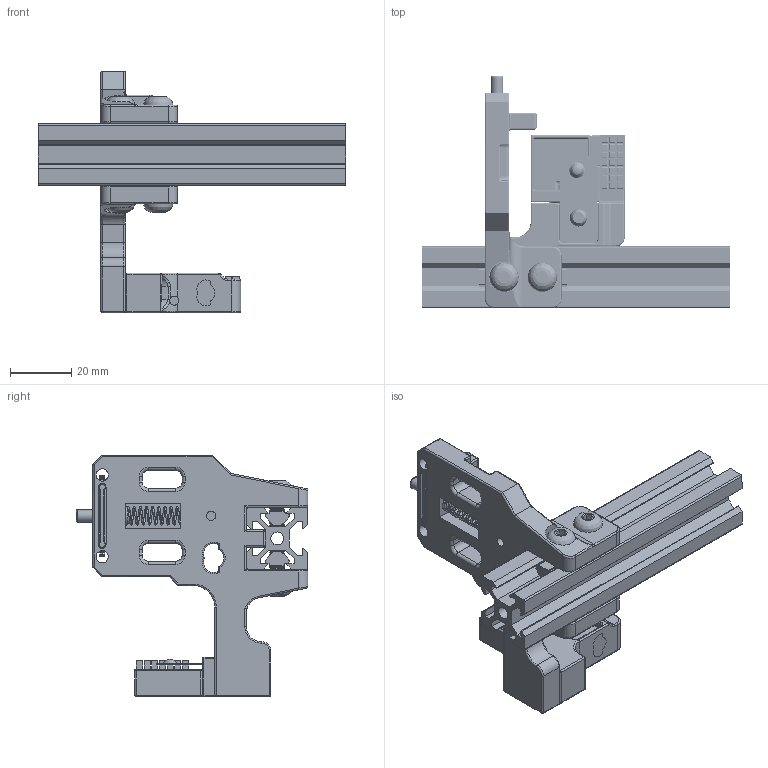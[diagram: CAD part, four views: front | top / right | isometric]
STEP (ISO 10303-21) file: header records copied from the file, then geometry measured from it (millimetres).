
FILE_DESCRIPTION(/* description */ (''),/* implementation_level */ '2;1');
FILE_NAME(/* name */ 'Lineux r2.1 Dock v44.step',/* time_stamp */ '2025-10-04T12:40:46+07:00',/* author */ (''),/* organization */ (''),/* preprocessor_version */ 'ST-DEVELOPER v20.1',/* originating_system */ 'Autodesk Translation Framework v14.17.0.0',/* authorisation */ '');
FILE_SCHEMA (('AUTOMOTIVE_DESIGN { 1 0 10303 214 3 1 1 }'));
Products named in the file (37): Lineux r2.1 Dock; Nozzle Blocker; Drip Tray; 6x3mm magnet (2); 6x3mm magnet (3); [a]_drip_tray; Nozzle Blocker (1); Bambulab A1 Brush; nozzle_blocker_mount (1); 6x3mm magnet (5); m3 washer (1); AA battery terminal; m3 x 10mm bhcs (4); m3 hex nut (3); 6x3mm magnet (4); m3 x 10mm bhcs (2); [a]_logo_nb; Dock; dock_1; Hardware (1); m3 x 6mm bhcs (1); 2020 Drop-in T-nut, M5; 2020 Drop-in T-nut, M5_1; m5 x 12mm bhcs (1); m5 x 12mm bhcs (3); Wire; m5 x 12mm bhcs; m5 x 12mm bhcs (2); spring OD6 ID5 20mm; m3 x OD4 16mm threaded dowel pin; m3 heat insert; 6 x 3mm n52 magnet; 8 x 5mm n52 magnet; 8 x 5mm n52 magnet (1); 2020 Drop-in T-nut, M5_2; 2020 Drop-in T-nut, M5_3; 2020 Extrusion
Assembly tree (36 placements, depth 4):
  Lineux r2.1 Dock
    Nozzle Blocker
      Drip Tray
        6x3mm magnet (2)
        6x3mm magnet (3)
        [a]_drip_tray
      Nozzle Blocker (1)
        Bambulab A1 Brush
        nozzle_blocker_mount (1)
        6x3mm magnet (5)
        m3 washer (1)
        AA battery terminal
        m3 x 10mm bhcs (4)
        m3 hex nut (3)
        6x3mm magnet (4)
        m3 x 10mm bhcs (2)
        [a]_logo_nb
    Dock
      dock_1
      Hardware (1)
        m3 x 6mm bhcs (1)
        2020 Drop-in T-nut, M5
        2020 Drop-in T-nut, M5_1
        m5 x 12mm bhcs (1)
        m5 x 12mm bhcs (3)
        Wire
        m5 x 12mm bhcs
        m5 x 12mm bhcs (2)
        spring OD6 ID5 20mm
        m3 x OD4 16mm threaded dowel pin
        m3 heat insert
        6 x 3mm n52 magnet
        8 x 5mm n52 magnet
        8 x 5mm n52 magnet (1)
        2020 Drop-in T-nut, M5_2
        2020 Drop-in T-nut, M5_3
    2020 Extrusion
Bounding box: 100 x 75.5 x 78.76 mm (x, y, z)
Volume: 54600.8 mm3; surface area: 42978.7 mm2
Topology: 35 solids, 35 shells, 1617 faces, 4140 edges, 2596 vertices
Faces by surface type: cylinder 781, plane 515, bspline 150, torus 89, sphere 50, cone 32
Full cylindrical faces by diameter (mm): 0.3 x14, 2.356 x52, 2.5 x5, 2.529 x11, 2.729 x1, 2.927 x49, 3 x8, 3.086 x5, 3.4 x2, 3.99 x16, 4 x3, 4.145 x2, 4.2 x2, 4.7 x1, 4.901 x36, 5.12 x12, 5.5 x4, 5.7 x3, 6 x5, 6.1 x5, 6.7 x1, 7 x1, 8 x2, 8.1 x2, 10 x2
Entity records: 105958 total; most frequent: CARTESIAN_POINT 67723, ORIENTED_EDGE 8202, DIRECTION 7093, EDGE_CURVE 4101, AXIS2_PLACEMENT_3D 2640, VERTEX_POINT 2596, LINE 1813, VECTOR 1813
